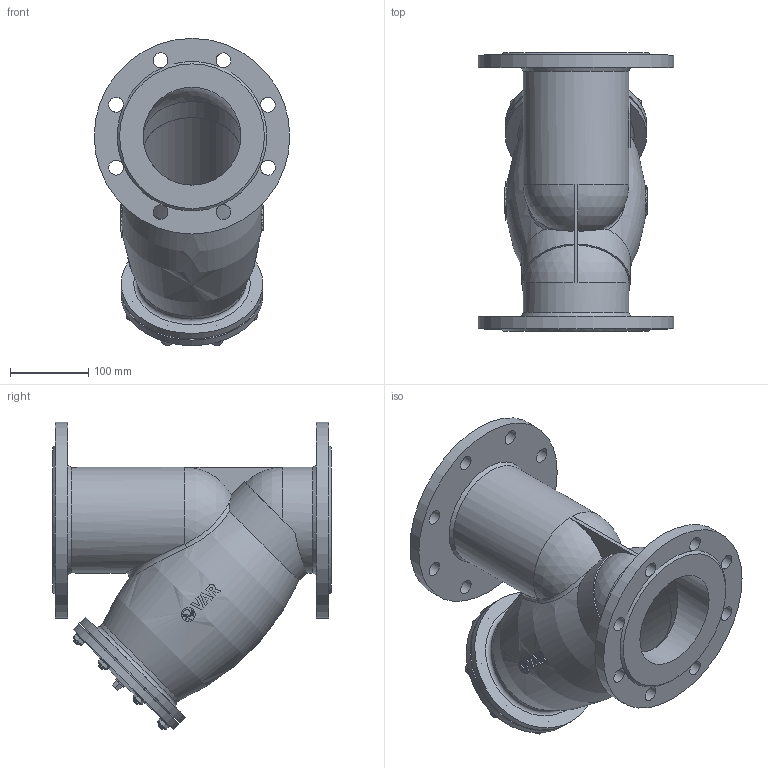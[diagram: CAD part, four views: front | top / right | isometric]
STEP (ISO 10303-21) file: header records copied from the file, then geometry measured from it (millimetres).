
FILE_DESCRIPTION(('STEP AP203'), '1');
FILE_NAME('VAR STRAINER ôèëüòð-ãðÿçåóëîâèòåëü', '', ('UNSPECIFIED'), ('UNSPECIFIED'), 'C3D Converter', 'C3D Toolkit', '');
FILE_SCHEMA(('CONFIG_CONTROL_DESIGN'));
Length unit declared in the file: millimetre
Assembly tree (29 placements, depth 2):
  (unnamed)
    (unnamed)
    (unnamed)
    (unnamed)  x8
    (unnamed)  x8
    (unnamed)  x8
    (unnamed)
    (unnamed)
    (unnamed)
Bounding box: 250 x 356 x 392.58 mm (x, y, z)
Volume: 3037933.6 mm3; surface area: 916751.4 mm2
Topology: 30 solids, 30 shells, 553 faces, 1370 edges, 891 vertices
Faces by surface type: plane 235, extrusion 130, cylinder 88, cone 60, torus 26, sphere 8, bspline 6
Full cylindrical faces by diameter (mm): 8 x24, 9 x8, 10 x10, 14.4 x8, 15 x1, 17.763 x1, 19 x16, 125 x6, 129 x3, 135 x1, 139 x1, 143 x1, 145 x2, 181 x2, 250 x2
Entity records: 25329 total; most frequent: CARTESIAN_POINT 13289, ORIENTED_EDGE 1922, DIRECTION 1481, EDGE_CURVE 961, VERTEX_POINT 682, EDGE_LOOP 575, B_SPLINE_CURVE_WITH_KNOTS 566, AXIS2_PLACEMENT_3D 540
